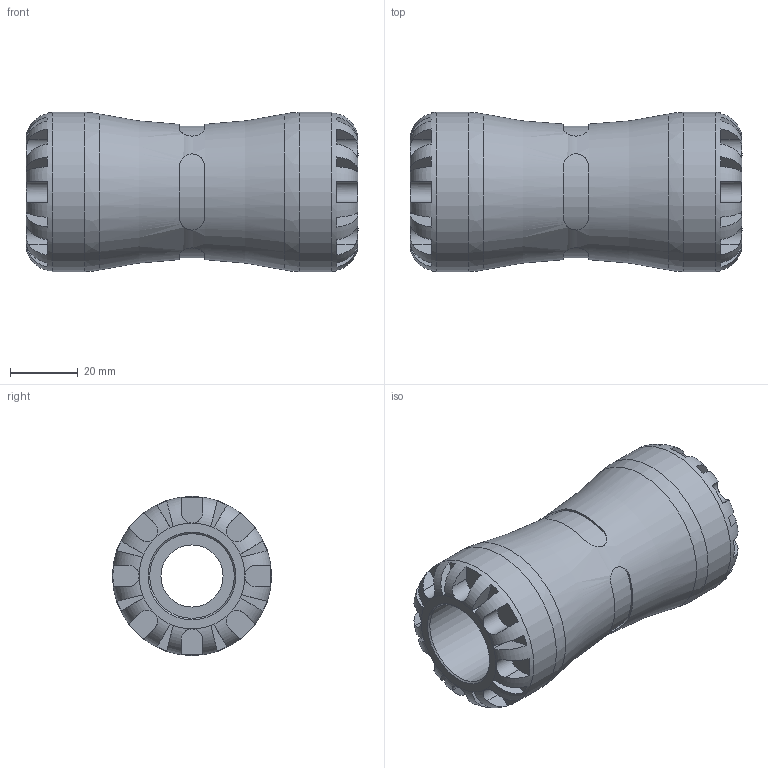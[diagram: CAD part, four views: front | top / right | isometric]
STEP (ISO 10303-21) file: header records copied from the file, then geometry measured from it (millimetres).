
FILE_DESCRIPTION(/* description */ ('PLASSON COPPER PIPE ADAPTOR 25X22 SERIES 1'),/* implementation_level */ '2;1');
FILE_NAME(/* name */ 'C:\Dropbox\KIMPROJECTS-Inventor\99-16-3568-Processing\1001C\1001C0025022_1901C0025022.ipt.stp',/* time_stamp */ '2017-01-22T10:04:49+02:00',/* author */ ('KIM'),/* organization */ (''),/* preprocessor_version */ 'ST-DEVELOPER v15.6',/* originating_system */ 'Autodesk Inventor 2015',/* authorisation */ '');
FILE_SCHEMA (('AUTOMOTIVE_DESIGN { 1 0 10303 214 3 1 1 }'));
Length unit declared in the file: millimetre
Products named in the file (1): 1001C0025022_1901C0025022
Bounding box: 98 x 47 x 47 mm (x, y, z)
Volume: 100108.3 mm3; surface area: 25152.9 mm2
Topology: 1 solids, 1 shells, 164 faces, 419 edges, 262 vertices
Faces by surface type: plane 108, cylinder 49, torus 3, cone 2, bspline 2
Full cylindrical faces by diameter (mm): 18.333 x1, 22 x1, 25 x1, 47 x2
Entity records: 6428 total; most frequent: CARTESIAN_POINT 2459, ORIENTED_EDGE 808, DIRECTION 762, EDGE_CURVE 404, AXIS2_PLACEMENT_3D 309, VERTEX_POINT 258, EDGE_LOOP 182, STYLED_ITEM 165
